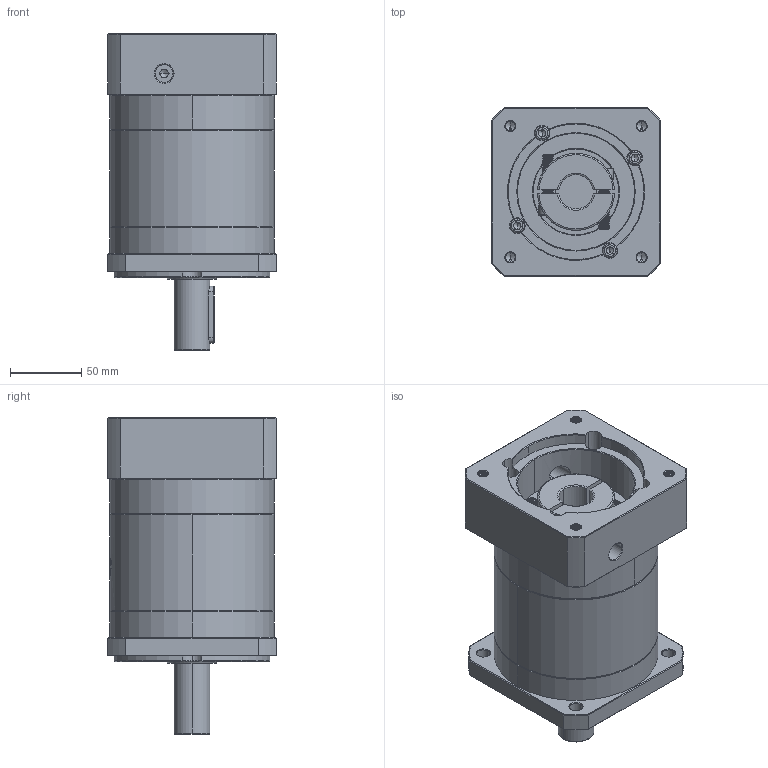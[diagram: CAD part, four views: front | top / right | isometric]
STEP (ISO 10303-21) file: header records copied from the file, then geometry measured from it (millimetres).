
FILE_DESCRIPTION (( 'STEP AP214' ), '1' );
FILE_NAME ('ZF120A-D25-L2-P2-24-95-130-M8.step', '2023-08-27T04:41:11', ( '' ), ( '' ), 'SwSTEP 2.0', 'SolidWorks 2016', '' );
FILE_SCHEMA (( 'AUTOMOTIVE_DESIGN' ));
Length unit declared in the file: millimetre
Products named in the file (1): ZF120A-D25-L2-P2-24-95-130-M8
Bounding box: 118 x 118 x 222 mm (x, y, z)
Volume: 1755474.7 mm3; surface area: 176438.9 mm2
Topology: 6 solids, 6 shells, 2225 faces, 5918 edges, 3794 vertices
Faces by surface type: plane 1034, cylinder 425, bspline 419, cone 327, torus 20
Entity records: 123085 total; most frequent: CARTESIAN_POINT 48695, ORIENTED_EDGE 11776, DIRECTION 8538, EDGE_CURVE 5888, VERTEX_POINT 3794, VECTOR 3098, LINE 3098, AXIS2_PLACEMENT_3D 2720
